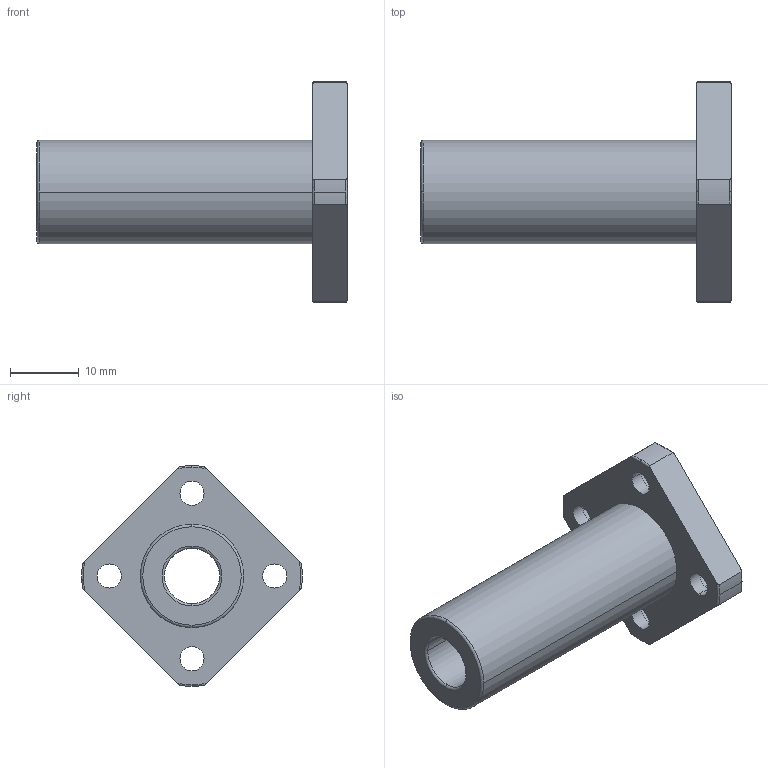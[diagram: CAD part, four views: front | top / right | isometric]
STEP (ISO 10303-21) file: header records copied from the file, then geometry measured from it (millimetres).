
FILE_DESCRIPTION(('FreeCAD Model'),'2;1');
FILE_NAME('Open CASCADE Shape Model','2021-05-03T15:25:22',('Author'),( ''),'Open CASCADE STEP processor 7.5','FreeCAD','Unknown');
FILE_SCHEMA(('AUTOMOTIVE_DESIGN { 1 0 10303 214 1 1 1 1 }'));
Length unit declared in the file: millimetre
Products named in the file (1): linear_lmk8luu
Bounding box: 45 x 32 x 32 mm (x, y, z)
Volume: 7446.5 mm3; surface area: 4835.2 mm2
Topology: 1 solids, 1 shells, 55 faces, 147 edges, 99 vertices
Faces by surface type: cylinder 26, torus 18, plane 11
Entity records: 4837 total; most frequent: CARTESIAN_POINT 1912, DIRECTION 560, ORIENTED_EDGE 294, PCURVE 294, DEFINITIONAL_REPRESENTATION 294, LINE 245, VECTOR 245, AXIS2_PLACEMENT_3D 149
